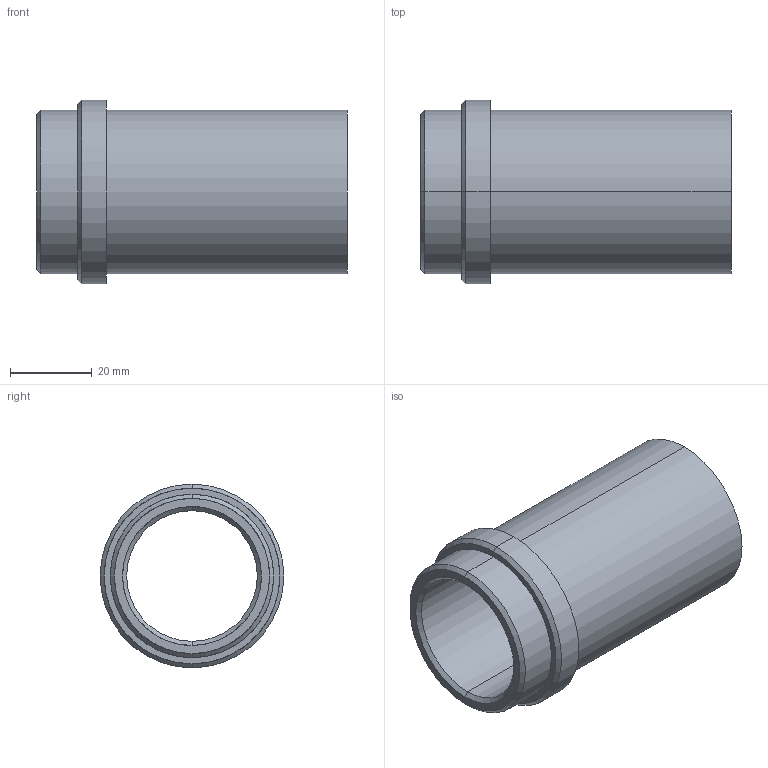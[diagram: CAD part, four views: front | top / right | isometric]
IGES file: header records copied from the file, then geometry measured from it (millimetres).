
Start section: START RECORD GO HERE.
Global section: file name: 358-32x76.igs; native system: DASSAULT SYSTEMES CATIA V5 R20 - www.3ds.com; preprocessor: CATIA Version 5 Release 20 ; author: Utente; organization: NB04-ASUS; date: 20210409.151542; units: millimetre
Bounding box: 76 x 45 x 45 mm (x, y, z)
Surface area: 18572 mm2 (no closed solid volume)
Topology: 0 solids, 0 shells, 20 faces, 128 edges, 128 vertices
Faces by surface type: revolution 16, plane 4
